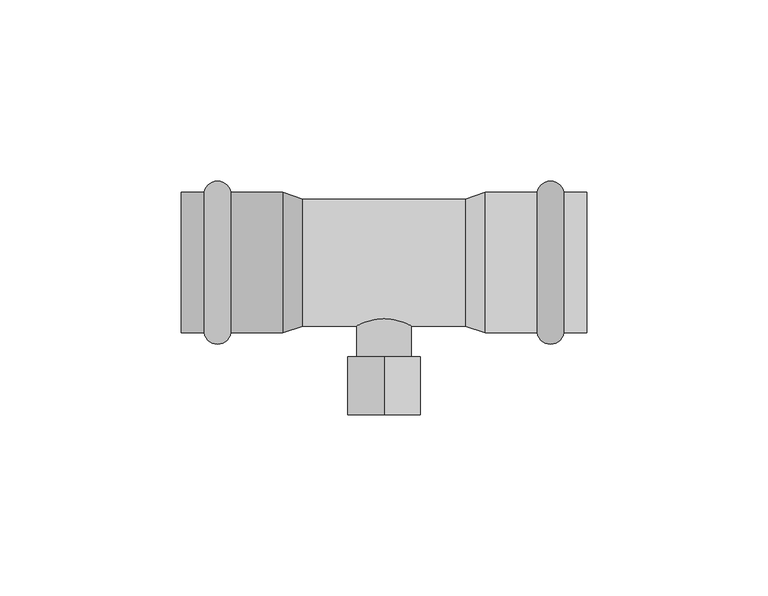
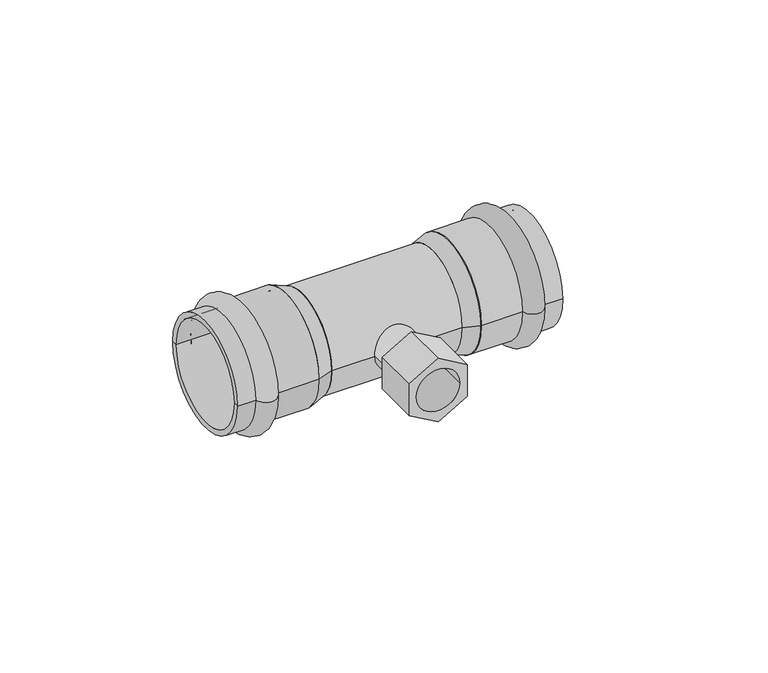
"""IFC4 building model written with IfcOpenShell, lengths in millimetres: pipe fitting geometry, VALTEC_VTi.932.I_Тройник с переходом на внутреннюю резьбу нержавеющая сталь : VTi.932.I."""

from ifc_helpers import new_model, si_unit, point, frame, origin, origin_2d, place, context, project, spatial, polyline, circle_curve, ellipse_curve, trimmed, segment, composite_curve, outline, extrude, source, transform, mapped, element, save
from ifc_brep_helpers import plane_surface, cylinder_surface, revolved_surface, advanced_brep


def pipe_fitting_d4d80c89(model_context):
    return source(origin(), model_context, "Body", "SolidModel", [
        advanced_brep(
        [(49.6432371, 19.4, 0.0), (49.6432371, -19.4, 0.0), (42.2567629, -19.4, 0.0), (42.2567629, 19.4, 0.0), (56.0, 19.4, 0.0), (56.0, -19.4, 0.0), (56.0, 17.5, 0.0), (56.0, -17.5, 0.0), (28.0, 17.5, 0.0), (28.0, -17.5, 0.0), (28.0, 19.4, 0.0), (28.0, -19.4, 0.0)],
        [
            (0, 1, circle_curve(frame((49.6432371, 0.0, 0.0), z_axis=(-1.0, 0.0, 0.0), x_axis=(0.0, -1.0, 0.0)), 19.4)),
            (1, 2, circle_curve(frame((45.95, -18.75, 0.0), z_axis=(0.0, 0.0, -1.0), x_axis=(-1.0, 0.0, 0.0)), 3.75)),
            (2, 3, circle_curve(frame((42.2567629, 0.0, 0.0), z_axis=(1.0, 0.0, 0.0), x_axis=(0.0, -1.0, 0.0)), 19.4)),
            (3, 0, circle_curve(frame((45.95, 18.75, 0.0), z_axis=(0.0, 0.0, -1.0), x_axis=(-1.0, 0.0, 0.0)), 3.75)),
            (1, 0, circle_curve(frame((49.6432371, 0.0, 0.0), z_axis=(-1.0, 0.0, 0.0), x_axis=(0.0, -1.0, 0.0)), 19.4)),
            (3, 2, circle_curve(frame((42.2567629, 0.0, 0.0), z_axis=(1.0, 0.0, 0.0), x_axis=(0.0, -1.0, 0.0)), 19.4)),
            (4, 5, circle_curve(frame((56.0, 0.0, 0.0), z_axis=(-1.0, 0.0, 0.0), x_axis=(0.0, -1.0, 0.0)), 19.4)),
            (5, 1),
            (0, 4),
            (5, 4, circle_curve(frame((56.0, 0.0, 0.0), z_axis=(-1.0, 0.0, 0.0), x_axis=(0.0, -1.0, 0.0)), 19.4)),
            (6, 7, circle_curve(frame((56.0, 0.0, 0.0), z_axis=(-1.0, 0.0, 0.0), x_axis=(0.0, -1.0, 0.0)), 17.5)),
            (7, 5),
            (4, 6),
            (7, 6, circle_curve(frame((56.0, 0.0, 0.0), z_axis=(-1.0, 0.0, 0.0), x_axis=(0.0, -1.0, 0.0)), 17.5)),
            (8, 9, circle_curve(frame((28.0, 0.0, 0.0), z_axis=(-1.0, 0.0, 0.0), x_axis=(0.0, -1.0, 0.0)), 17.5)),
            (9, 7),
            (6, 8),
            (9, 8, circle_curve(frame((28.0, 0.0, 0.0), z_axis=(-1.0, 0.0, 0.0), x_axis=(0.0, -1.0, 0.0)), 17.5)),
            (10, 11, circle_curve(frame((28.0, 0.0, 0.0), z_axis=(-1.0, 0.0, 0.0), x_axis=(0.0, -1.0, 0.0)), 19.4)),
            (11, 9),
            (8, 10),
            (11, 10, circle_curve(frame((28.0, 0.0, 0.0), z_axis=(-1.0, 0.0, 0.0), x_axis=(0.0, -1.0, 0.0)), 19.4)),
            (2, 11),
            (10, 3),
        ],
        [
            revolved_surface(trimmed(ellipse_curve(frame((45.95, -18.75, 0.0), z_axis=(0.0, 0.0, 1.0), x_axis=(-1.0, 0.0, 0.0)), 3.75, 3.75), [point((42.2567629, -19.4, 0.0))], [point((49.6432371, -19.4, 0.0))], True, "CARTESIAN"), (59.5364426, 0.0, 0.0), (1.0, 0.0, 0.0)),
            cylinder_surface(frame((59.5364426, 0.0, 0.0), z_axis=(1.0, 0.0, 0.0), x_axis=(0.0, -1.0, 0.0)), 19.4),
            plane_surface(frame((56.0, 0.0, 0.0), z_axis=(1.0, 0.0, 0.0), x_axis=(0.0, -1.0, 0.0))),
            revolved_surface(polyline([(56.0, -17.5, 0.0), (28.0, -17.5, 0.0)]), (59.5364426, 0.0, 0.0), (1.0, 0.0, 0.0)),
            plane_surface(frame((28.0, 0.0, 0.0), z_axis=(-1.0, 0.0, 0.0), x_axis=(0.0, -1.0, 0.0))),
        ],
        [
            (0, [[1, 2, 3, 4]]),
            (0, [[5, -4, 6, -2]]),
            (1, [[7, 8, -1, 9]]),
            (1, [[10, -9, -5, -8]]),
            (2, [[11, 12, -7, 13]]),
            (2, [[14, -13, -10, -12]]),
            (3, [[15, 16, -11, 17]]),
            (3, [[18, -17, -14, -16]]),
            (4, [[19, 20, -15, 21]]),
            (4, [[22, -21, -18, -20]]),
            (1, [[-3, 23, -19, 24]]),
            (1, [[-6, -24, -22, -23]]),
        ],
    ),
        advanced_brep(
        [(-49.6432371, -19.4, 0.0), (-49.6432371, 19.4, 0.0), (-42.2567629, 19.4, 0.0), (-42.2567629, -19.4, 0.0), (-56.0, -19.4, 0.0), (-56.0, 19.4, 0.0), (-56.0, -17.5, 0.0), (-56.0, 17.5, 0.0), (-28.0, -17.5, 0.0), (-28.0, 17.5, 0.0), (-28.0, -19.4, 0.0), (-28.0, 19.4, 0.0)],
        [
            (0, 1, circle_curve(frame((-49.6432371, 0.0, 0.0), z_axis=(1.0, 0.0, 0.0), x_axis=(0.0, 1.0, 0.0)), 19.4)),
            (1, 2, circle_curve(frame((-45.95, 18.75, 0.0), z_axis=(0.0, 0.0, -1.0), x_axis=(1.0, 0.0, 0.0)), 3.75)),
            (2, 3, circle_curve(frame((-42.2567629, 0.0, 0.0), z_axis=(-1.0, 0.0, 0.0), x_axis=(0.0, 1.0, 0.0)), 19.4)),
            (3, 0, circle_curve(frame((-45.95, -18.75, 0.0), z_axis=(0.0, 0.0, -1.0), x_axis=(1.0, 0.0, 0.0)), 3.75)),
            (1, 0, circle_curve(frame((-49.6432371, 0.0, 0.0), z_axis=(1.0, 0.0, 0.0), x_axis=(0.0, 1.0, 0.0)), 19.4)),
            (3, 2, circle_curve(frame((-42.2567629, 0.0, 0.0), z_axis=(-1.0, 0.0, 0.0), x_axis=(0.0, 1.0, 0.0)), 19.4)),
            (4, 5, circle_curve(frame((-56.0, 0.0, 0.0), z_axis=(1.0, 0.0, 0.0), x_axis=(0.0, 1.0, 0.0)), 19.4)),
            (5, 1),
            (0, 4),
            (5, 4, circle_curve(frame((-56.0, 0.0, 0.0), z_axis=(1.0, 0.0, 0.0), x_axis=(0.0, 1.0, 0.0)), 19.4)),
            (6, 7, circle_curve(frame((-56.0, 0.0, 0.0), z_axis=(1.0, 0.0, 0.0), x_axis=(0.0, 1.0, 0.0)), 17.5)),
            (7, 5),
            (4, 6),
            (7, 6, circle_curve(frame((-56.0, 0.0, 0.0), z_axis=(1.0, 0.0, 0.0), x_axis=(0.0, 1.0, 0.0)), 17.5)),
            (8, 9, circle_curve(frame((-28.0, 0.0, 0.0), z_axis=(1.0, 0.0, 0.0), x_axis=(0.0, 1.0, 0.0)), 17.5)),
            (9, 7),
            (6, 8),
            (9, 8, circle_curve(frame((-28.0, 0.0, 0.0), z_axis=(1.0, 0.0, 0.0), x_axis=(0.0, 1.0, 0.0)), 17.5)),
            (10, 11, circle_curve(frame((-28.0, 0.0, 0.0), z_axis=(1.0, 0.0, 0.0), x_axis=(0.0, 1.0, 0.0)), 19.4)),
            (11, 9),
            (8, 10),
            (11, 10, circle_curve(frame((-28.0, 0.0, 0.0), z_axis=(1.0, 0.0, 0.0), x_axis=(0.0, 1.0, 0.0)), 19.4)),
            (2, 11),
            (10, 3),
        ],
        [
            revolved_surface(trimmed(ellipse_curve(frame((-45.95, 18.75, 0.0), z_axis=(0.0, 0.0, 1.0), x_axis=(1.0, 0.0, 0.0)), 3.75, 3.75), [point((-42.2567629, 19.4, 0.0))], [point((-49.6432371, 19.4, 0.0))], True, "CARTESIAN"), (-59.5364426, 0.0, 0.0), (-1.0, 0.0, 0.0)),
            cylinder_surface(frame((-59.5364426, 0.0, 0.0), z_axis=(-1.0, 0.0, 0.0), x_axis=(0.0, 1.0, 0.0)), 19.4),
            plane_surface(frame((-56.0, 0.0, 0.0), z_axis=(-1.0, 0.0, 0.0), x_axis=(0.0, 1.0, 0.0))),
            revolved_surface(polyline([(-56.0, 17.5, 0.0), (-28.0, 17.5, 0.0)]), (-59.5364426, 0.0, 0.0), (-1.0, 0.0, 0.0)),
            plane_surface(frame((-28.0, 0.0, 0.0), z_axis=(1.0, 0.0, 0.0), x_axis=(0.0, 1.0, 0.0))),
        ],
        [
            (0, [[1, 2, 3, 4]]),
            (0, [[5, -4, 6, -2]]),
            (1, [[7, 8, -1, 9]]),
            (1, [[10, -9, -5, -8]]),
            (2, [[11, 12, -7, 13]]),
            (2, [[14, -13, -10, -12]]),
            (3, [[15, 16, -11, 17]]),
            (3, [[18, -17, -14, -16]]),
            (4, [[19, 20, -15, 21]]),
            (4, [[22, -21, -18, -20]]),
            (1, [[-3, 23, -19, 24]]),
            (1, [[-6, -24, -22, -23]]),
        ],
    ),
        extrude(outline(polyline([(11.5470054, 0.0), (5.7735027, -10.0), (-5.7735027, -10.0), (-11.5470054, 0.0), (-5.7735027, 10.0), (5.7735027, 10.0), (11.5470054, 0.0)]), holes=[composite_curve([segment(trimmed(circle_curve(origin_2d(), 7.5), [point((0.0, -7.5))], [point((0.0, 7.5))], True, "CARTESIAN"), True, "CONTINUOUS"), segment(trimmed(circle_curve(origin_2d(), 7.5), [point((0.0, 7.5))], [point((0.0, -7.5))], True, "CARTESIAN"), True, "CONTINUOUS")], self_intersect=False)]), frame((0.0, -42.0, 0.0), z_axis=(0.0, 1.0, 0.0), x_axis=(0.0, 0.0, 1.0)), (0.0, 0.0, 1.0), 16.0),
        extrude(outline(composite_curve([segment(trimmed(circle_curve(origin_2d(), 7.5), [point((0.0, -7.5))], [point((0.0, 7.5))], False, "CARTESIAN"), True, "CONTINUOUS"), segment(trimmed(circle_curve(origin_2d(), 7.5), [point((0.0, 7.5))], [point((0.0, -7.5))], False, "CARTESIAN"), True, "CONTINUOUS")], self_intersect=False)), frame((0.0, -26.0, 0.0), z_axis=(0.0, 1.0, 0.0), x_axis=(0.0, 0.0, 1.0)), (0.0, 0.0, 1.0), 26.0),
        extrude(outline(composite_curve([segment(trimmed(circle_curve(origin_2d(), 17.5), [point((-17.5, 0.0))], [point((17.5, 0.0))], False, "CARTESIAN"), True, "CONTINUOUS"), segment(trimmed(circle_curve(origin_2d(), 17.5), [point((17.5, 0.0))], [point((-17.5, 0.0))], False, "CARTESIAN"), True, "CONTINUOUS")], self_intersect=False)), frame((-22.4, 0.0, 0.0), z_axis=(1.0, 0.0, 0.0), x_axis=(0.0, 1.0, 0.0)), (0.0, 0.0, 1.0), 44.8),
        advanced_brep(
        [(28.0, -19.4, 0.0), (28.0, 19.4, 0.0), (22.4, -17.5, 0.0), (22.4, 17.5, 0.0)],
        [
            (0, 1, circle_curve(frame((28.0, 0.0, 0.0), z_axis=(1.0, 0.0, 0.0), x_axis=(0.0, -1.0, 0.0)), 19.4)),
            (1, 0, circle_curve(frame((28.0, 0.0, 0.0), z_axis=(1.0, 0.0, 0.0), x_axis=(0.0, 1.0, 0.0)), 19.4)),
            (2, 3, circle_curve(frame((22.4, 0.0, 0.0), z_axis=(-1.0, 0.0, 0.0), x_axis=(0.0, 1.0, 0.0)), 17.5)),
            (3, 2, circle_curve(frame((22.4, 0.0, 0.0), z_axis=(-1.0, 0.0, 0.0), x_axis=(0.0, -1.0, 0.0)), 17.5)),
            (3, 1),
            (0, 2),
        ],
        [
            plane_surface(frame((28.0, 0.0, 0.0), z_axis=(1.0, 0.0, 0.0), x_axis=(0.0, 0.0, 1.0))),
            plane_surface(frame((22.4, 0.0, 0.0), z_axis=(-1.0, 0.0, 0.0), x_axis=(0.0, 0.0, 1.0))),
            revolved_surface(polyline([(22.4, 17.500000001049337, 0.0), (28.0, 19.4, 0.0)]), (-29.1789474, 0.0, 0.0), (1.0, 0.0, 0.0)),
            revolved_surface(polyline([(22.4, -17.500000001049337, 0.0), (28.0, -19.4, 0.0)]), (-29.1789474, 0.0, 0.0), (1.0, 0.0, 0.0)),
        ],
        [
            (0, [[1, 2]]),
            (1, [[3, 4]]),
            (2, [[-4, 5, -1, 6]]),
            (3, [[-3, -6, -2, -5]]),
        ],
    ),
        advanced_brep(
        [(-28.0, -19.4, 0.0), (-28.0, 19.4, 0.0), (-22.4, -17.5, 0.0), (-22.4, 17.5, 0.0)],
        [
            (0, 1, circle_curve(frame((-28.0, 0.0, 0.0), z_axis=(-1.0, 0.0, 0.0), x_axis=(0.0, -1.0, 0.0)), 19.4)),
            (1, 0, circle_curve(frame((-28.0, 0.0, 0.0), z_axis=(-1.0, 0.0, 0.0), x_axis=(0.0, 1.0, 0.0)), 19.4)),
            (2, 3, circle_curve(frame((-22.4, 0.0, 0.0), z_axis=(1.0, 0.0, 0.0), x_axis=(0.0, 1.0, 0.0)), 17.5)),
            (3, 2, circle_curve(frame((-22.4, 0.0, 0.0), z_axis=(1.0, 0.0, 0.0), x_axis=(0.0, -1.0, 0.0)), 17.5)),
            (2, 0),
            (1, 3),
        ],
        [
            plane_surface(frame((-28.0, 0.0, 0.0), z_axis=(-1.0, 0.0, 0.0), x_axis=(0.0, 0.0, -1.0))),
            plane_surface(frame((-22.4, 0.0, 0.0), z_axis=(1.0, 0.0, 0.0), x_axis=(0.0, 0.0, -1.0))),
            revolved_surface(polyline([(-22.4, -17.500000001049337, 0.0), (-28.0, -19.4, 0.0)]), (29.1789474, 0.0, 0.0), (-1.0, 0.0, 0.0)),
            revolved_surface(polyline([(-22.4, 17.500000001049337, 0.0), (-28.0, 19.4, 0.0)]), (29.1789474, 0.0, 0.0), (-1.0, 0.0, 0.0)),
        ],
        [
            (0, [[1, 2]]),
            (1, [[3, 4]]),
            (2, [[-3, 5, -2, 6]]),
            (3, [[-4, -6, -1, -5]]),
        ],
    ),
    ])


if __name__ == "__main__":
    model = new_model("IFC4")
    model_context = context("Model", 3, world=origin())
    ifc_project = project(units=[si_unit("LENGTHUNIT", "METRE", prefix="MILLI")], contexts=[model_context])
    site = spatial("IfcSite", under=ifc_project)
    building = spatial("IfcBuilding", under=site)
    placement = place(None, origin())
    pipe_fitting_shape = pipe_fitting_d4d80c89(model_context)
    element("IfcPipeFitting", 1, ObjectType="VALTEC_VTi.932.I_Тройник с переходом на внутреннюю резьбу нержавеющая сталь : VTi.932.I", at=placement, inside=building, context=model_context, shape_type="MappedRepresentation", body=[
        mapped(pipe_fitting_shape, transform((0.0, 0.0, 0.0), x_axis=(1.0, 0.0, 0.0), y_axis=(0.0, 1.0, 0.0), z_axis=(0.0, 0.0, 1.0))),
    ])
    save(model, "model.ifc")
